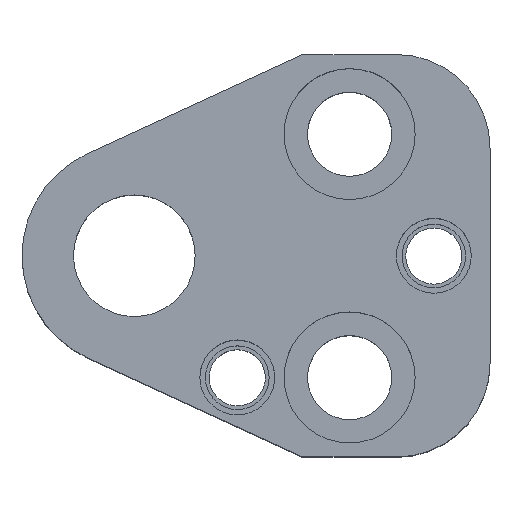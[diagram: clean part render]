
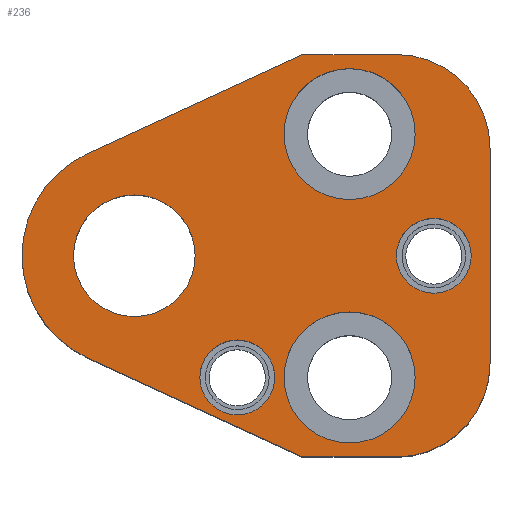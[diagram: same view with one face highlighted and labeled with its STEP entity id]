
A CAD part, top view. The second image highlights one B-rep face of the part: STEP entity #236.
In plain terms, the highlighted planar face has unit normal (0, 0, 1).
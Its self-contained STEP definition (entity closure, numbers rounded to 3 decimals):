
#107=FACE_BOUND('',#331,.T.);
#108=FACE_BOUND('',#332,.T.);
#109=FACE_BOUND('',#333,.T.);
#110=FACE_BOUND('',#334,.T.);
#111=FACE_BOUND('',#335,.T.);
#112=FACE_BOUND('',#336,.T.);
#152=CIRCLE('',#816,10.);
#154=CIRCLE('',#820,10.);
#157=CIRCLE('',#826,12.);
#174=CIRCLE('',#854,4.);
#176=CIRCLE('',#857,4.);
#178=CIRCLE('',#861,4.);
#180=CIRCLE('',#864,4.);
#190=CIRCLE('',#880,7.);
#191=CIRCLE('',#881,7.);
#192=CIRCLE('',#882,7.);
#193=CIRCLE('',#883,7.);
#194=CIRCLE('',#884,6.5);
#195=CIRCLE('',#885,6.5);
#236=ADVANCED_FACE('',(#107,#108,#109,#110,#111,#112),#260,.T.);
#260=PLANE('',#886);
#331=EDGE_LOOP('',(#471,#472,#473,#474,#475,#476,#477,#478));
#332=EDGE_LOOP('',(#479,#480));
#333=EDGE_LOOP('',(#481,#482));
#334=EDGE_LOOP('',(#483,#484));
#335=EDGE_LOOP('',(#485,#486));
#336=EDGE_LOOP('',(#487,#488));
#471=ORIENTED_EDGE('',*,*,#626,.T.);
#472=ORIENTED_EDGE('',*,*,#630,.T.);
#473=ORIENTED_EDGE('',*,*,#633,.T.);
#474=ORIENTED_EDGE('',*,*,#636,.T.);
#475=ORIENTED_EDGE('',*,*,#639,.T.);
#476=ORIENTED_EDGE('',*,*,#642,.T.);
#477=ORIENTED_EDGE('',*,*,#645,.T.);
#478=ORIENTED_EDGE('',*,*,#648,.T.);
#479=ORIENTED_EDGE('',*,*,#697,.F.);
#480=ORIENTED_EDGE('',*,*,#698,.F.);
#481=ORIENTED_EDGE('',*,*,#699,.F.);
#482=ORIENTED_EDGE('',*,*,#700,.F.);
#483=ORIENTED_EDGE('',*,*,#683,.F.);
#484=ORIENTED_EDGE('',*,*,#679,.F.);
#485=ORIENTED_EDGE('',*,*,#677,.F.);
#486=ORIENTED_EDGE('',*,*,#673,.F.);
#487=ORIENTED_EDGE('',*,*,#701,.T.);
#488=ORIENTED_EDGE('',*,*,#702,.T.);
#560=VERTEX_POINT('',#1160);
#561=VERTEX_POINT('',#1162);
#564=VERTEX_POINT('',#1169);
#566=VERTEX_POINT('',#1175);
#568=VERTEX_POINT('',#1181);
#570=VERTEX_POINT('',#1187);
#572=VERTEX_POINT('',#1193);
#574=VERTEX_POINT('',#1199);
#591=VERTEX_POINT('',#1257);
#592=VERTEX_POINT('',#1258);
#595=VERTEX_POINT('',#1270);
#596=VERTEX_POINT('',#1271);
#607=VERTEX_POINT('',#1307);
#608=VERTEX_POINT('',#1308);
#609=VERTEX_POINT('',#1311);
#610=VERTEX_POINT('',#1312);
#611=VERTEX_POINT('',#1315);
#612=VERTEX_POINT('',#1316);
#626=EDGE_CURVE('',#561,#560,#726,.T.);
#630=EDGE_CURVE('',#560,#564,#730,.T.);
#633=EDGE_CURVE('',#564,#566,#152,.T.);
#636=EDGE_CURVE('',#566,#568,#734,.T.);
#639=EDGE_CURVE('',#568,#570,#154,.T.);
#642=EDGE_CURVE('',#570,#572,#738,.T.);
#645=EDGE_CURVE('',#572,#574,#741,.T.);
#648=EDGE_CURVE('',#574,#561,#157,.T.);
#673=EDGE_CURVE('',#591,#592,#174,.T.);
#677=EDGE_CURVE('',#592,#591,#176,.T.);
#679=EDGE_CURVE('',#595,#596,#178,.T.);
#683=EDGE_CURVE('',#596,#595,#180,.T.);
#697=EDGE_CURVE('',#607,#608,#190,.T.);
#698=EDGE_CURVE('',#608,#607,#191,.T.);
#699=EDGE_CURVE('',#609,#610,#192,.T.);
#700=EDGE_CURVE('',#610,#609,#193,.T.);
#701=EDGE_CURVE('',#611,#612,#194,.T.);
#702=EDGE_CURVE('',#612,#611,#195,.T.);
#726=LINE('',#1161,#770);
#730=LINE('',#1170,#774);
#734=LINE('',#1182,#778);
#738=LINE('',#1194,#782);
#741=LINE('',#1200,#785);
#770=VECTOR('',#916,1.);
#774=VECTOR('',#922,1.);
#778=VECTOR('',#934,1.);
#782=VECTOR('',#946,1.);
#785=VECTOR('',#951,1.);
#816=AXIS2_PLACEMENT_3D('',#1176,#927,#928);
#820=AXIS2_PLACEMENT_3D('',#1188,#939,#940);
#826=AXIS2_PLACEMENT_3D('',#1204,#957,#958);
#854=AXIS2_PLACEMENT_3D('',#1256,#1021,#1022);
#857=AXIS2_PLACEMENT_3D('',#1265,#1029,#1030);
#861=AXIS2_PLACEMENT_3D('',#1269,#1037,#1038);
#864=AXIS2_PLACEMENT_3D('',#1278,#1045,#1046);
#880=AXIS2_PLACEMENT_3D('',#1306,#1081,#1082);
#881=AXIS2_PLACEMENT_3D('',#1309,#1083,#1084);
#882=AXIS2_PLACEMENT_3D('',#1310,#1085,#1086);
#883=AXIS2_PLACEMENT_3D('',#1313,#1087,#1088);
#884=AXIS2_PLACEMENT_3D('',#1314,#1089,#1090);
#885=AXIS2_PLACEMENT_3D('',#1317,#1091,#1092);
#886=AXIS2_PLACEMENT_3D('',#1318,#1093,#1094);
#916=DIRECTION('',(0.908,-0.418,0.));
#922=DIRECTION('',(1.,0.,0.));
#927=DIRECTION('',(0.,0.,1.));
#928=DIRECTION('',(-0.707,0.707,0.));
#934=DIRECTION('',(0.,1.,0.));
#939=DIRECTION('',(0.,0.,1.));
#940=DIRECTION('',(-0.707,-0.707,0.));
#946=DIRECTION('',(-1.,0.,0.));
#951=DIRECTION('',(-0.908,-0.418,0.));
#957=DIRECTION('',(0.,0.,1.));
#958=DIRECTION('',(1.,0.,0.));
#1021=DIRECTION('',(0.,0.,1.));
#1022=DIRECTION('',(-1.,0.,0.));
#1029=DIRECTION('',(0.,0.,1.));
#1030=DIRECTION('',(1.,0.,0.));
#1037=DIRECTION('',(0.,0.,1.));
#1038=DIRECTION('',(-1.,0.,0.));
#1045=DIRECTION('',(0.,0.,1.));
#1046=DIRECTION('',(1.,0.,0.));
#1081=DIRECTION('',(0.,0.,1.));
#1082=DIRECTION('',(1.,0.,0.));
#1083=DIRECTION('',(0.,0.,1.));
#1084=DIRECTION('',(-1.,0.,0.));
#1085=DIRECTION('',(0.,0.,1.));
#1086=DIRECTION('',(1.,0.,0.));
#1087=DIRECTION('',(0.,0.,1.));
#1088=DIRECTION('',(-1.,0.,0.));
#1089=DIRECTION('',(0.,0.,-1.));
#1090=DIRECTION('',(0.,-1.,0.));
#1091=DIRECTION('',(0.,0.,-1.));
#1092=DIRECTION('',(0.,1.,0.));
#1093=DIRECTION('',(0.,0.,1.));
#1094=DIRECTION('',(0.908,-0.418,0.));
#1160=CARTESIAN_POINT('',(18.,-21.5,30.));
#1161=CARTESIAN_POINT('',(18.,-21.5,30.));
#1162=CARTESIAN_POINT('',(-5.019,-10.9,30.));
#1169=CARTESIAN_POINT('',(28.,-21.5,30.));
#1170=CARTESIAN_POINT('',(18.,-21.5,30.));
#1175=CARTESIAN_POINT('',(38.,-11.5,30.));
#1176=CARTESIAN_POINT('',(28.,-11.5,30.));
#1181=CARTESIAN_POINT('',(38.,11.5,30.));
#1182=CARTESIAN_POINT('',(38.,11.5,30.));
#1187=CARTESIAN_POINT('',(28.,21.5,30.));
#1188=CARTESIAN_POINT('',(28.,11.5,30.));
#1193=CARTESIAN_POINT('',(18.,21.5,30.));
#1194=CARTESIAN_POINT('',(18.,21.5,30.));
#1199=CARTESIAN_POINT('',(-5.019,10.9,30.));
#1200=CARTESIAN_POINT('',(18.,21.5,30.));
#1204=CARTESIAN_POINT('',(0.,0.,30.));
#1256=CARTESIAN_POINT('',(11.,-13.,30.));
#1257=CARTESIAN_POINT('',(11.,-17.,30.));
#1258=CARTESIAN_POINT('',(11.,-9.,30.));
#1265=CARTESIAN_POINT('',(11.,-13.,30.));
#1269=CARTESIAN_POINT('',(32.,0.,30.));
#1270=CARTESIAN_POINT('',(32.,-4.,30.));
#1271=CARTESIAN_POINT('',(32.,4.,30.));
#1278=CARTESIAN_POINT('',(32.,0.,30.));
#1306=CARTESIAN_POINT('',(23.,-13.,30.));
#1307=CARTESIAN_POINT('',(23.,-6.,30.));
#1308=CARTESIAN_POINT('',(23.,-20.,30.));
#1309=CARTESIAN_POINT('',(23.,-13.,30.));
#1310=CARTESIAN_POINT('',(23.,13.,30.));
#1311=CARTESIAN_POINT('',(23.,20.,30.));
#1312=CARTESIAN_POINT('',(23.,6.,30.));
#1313=CARTESIAN_POINT('',(23.,13.,30.));
#1314=CARTESIAN_POINT('',(0.,0.,30.));
#1315=CARTESIAN_POINT('',(-6.5,0.,30.));
#1316=CARTESIAN_POINT('',(6.5,0.,30.));
#1317=CARTESIAN_POINT('',(0.,0.,30.));
#1318=CARTESIAN_POINT('',(-5.019,-10.9,30.));
